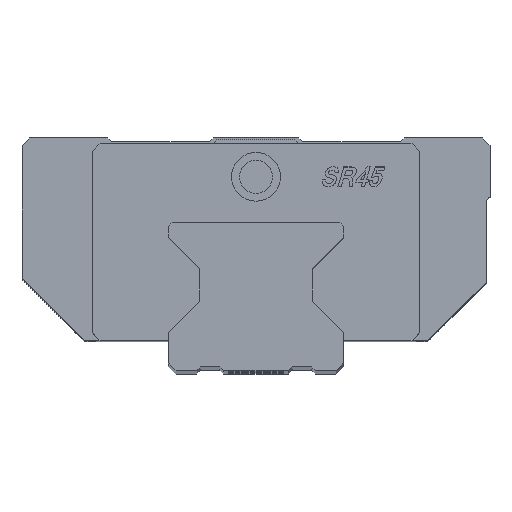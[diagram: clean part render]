
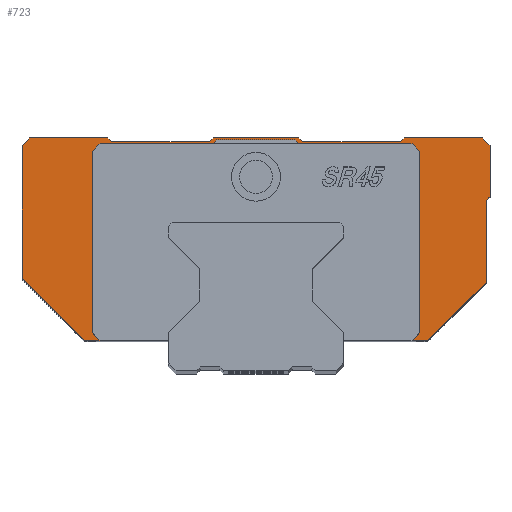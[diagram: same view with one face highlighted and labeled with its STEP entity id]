
A CAD part, top view. The second image highlights one B-rep face of the part: STEP entity #723.
In plain terms, the highlighted planar face has unit normal (0, 0, 1).
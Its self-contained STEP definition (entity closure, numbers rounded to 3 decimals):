
#723=ADVANCED_FACE('',(#1102),#961,.T.);
#961=PLANE('',#5102);
#1102=FACE_OUTER_BOUND('',#1381,.T.);
#1381=EDGE_LOOP('',(#2097,#2098,#2099,#2100,#2101,#2102,#2103,#2104,#2105,
#2106,#2107,#2108,#2109,#2110,#2111,#2112,#2113,#2114,#2115,#2116,#2117,
#2118,#2119,#2120,#2121,#2122,#2123,#2124,#2125,#2126));
#2097=ORIENTED_EDGE('',*,*,#3647,.T.);
#2098=ORIENTED_EDGE('',*,*,#3665,.T.);
#2099=ORIENTED_EDGE('',*,*,#3702,.T.);
#2100=ORIENTED_EDGE('',*,*,#3697,.T.);
#2101=ORIENTED_EDGE('',*,*,#3691,.T.);
#2102=ORIENTED_EDGE('',*,*,#3706,.T.);
#2103=ORIENTED_EDGE('',*,*,#3707,.T.);
#2104=ORIENTED_EDGE('',*,*,#3708,.T.);
#2105=ORIENTED_EDGE('',*,*,#3709,.T.);
#2106=ORIENTED_EDGE('',*,*,#3710,.T.);
#2107=ORIENTED_EDGE('',*,*,#3711,.T.);
#2108=ORIENTED_EDGE('',*,*,#3712,.T.);
#2109=ORIENTED_EDGE('',*,*,#3713,.T.);
#2110=ORIENTED_EDGE('',*,*,#3714,.T.);
#2111=ORIENTED_EDGE('',*,*,#3715,.T.);
#2112=ORIENTED_EDGE('',*,*,#3716,.T.);
#2113=ORIENTED_EDGE('',*,*,#3717,.T.);
#2114=ORIENTED_EDGE('',*,*,#3718,.T.);
#2115=ORIENTED_EDGE('',*,*,#3719,.T.);
#2116=ORIENTED_EDGE('',*,*,#3720,.F.);
#2117=ORIENTED_EDGE('',*,*,#3721,.F.);
#2118=ORIENTED_EDGE('',*,*,#3722,.F.);
#2119=ORIENTED_EDGE('',*,*,#3637,.F.);
#2120=ORIENTED_EDGE('',*,*,#3723,.F.);
#2121=ORIENTED_EDGE('',*,*,#3724,.F.);
#2122=ORIENTED_EDGE('',*,*,#3725,.F.);
#2123=ORIENTED_EDGE('',*,*,#3633,.F.);
#2124=ORIENTED_EDGE('',*,*,#3632,.F.);
#2125=ORIENTED_EDGE('',*,*,#3626,.F.);
#2126=ORIENTED_EDGE('',*,*,#3620,.F.);
#3125=VERTEX_POINT('',#7139);
#3126=VERTEX_POINT('',#7141);
#3130=VERTEX_POINT('',#7153);
#3134=VERTEX_POINT('',#7165);
#3135=VERTEX_POINT('',#7169);
#3138=VERTEX_POINT('',#7175);
#3139=VERTEX_POINT('',#7177);
#3146=VERTEX_POINT('',#7195);
#3159=VERTEX_POINT('',#7230);
#3179=VERTEX_POINT('',#7282);
#3180=VERTEX_POINT('',#7284);
#3183=VERTEX_POINT('',#7296);
#3185=VERTEX_POINT('',#7315);
#3186=VERTEX_POINT('',#7317);
#3187=VERTEX_POINT('',#7319);
#3188=VERTEX_POINT('',#7321);
#3189=VERTEX_POINT('',#7323);
#3190=VERTEX_POINT('',#7325);
#3191=VERTEX_POINT('',#7327);
#3192=VERTEX_POINT('',#7329);
#3193=VERTEX_POINT('',#7331);
#3194=VERTEX_POINT('',#7333);
#3195=VERTEX_POINT('',#7335);
#3196=VERTEX_POINT('',#7337);
#3197=VERTEX_POINT('',#7339);
#3198=VERTEX_POINT('',#7341);
#3199=VERTEX_POINT('',#7343);
#3200=VERTEX_POINT('',#7345);
#3201=VERTEX_POINT('',#7348);
#3202=VERTEX_POINT('',#7350);
#3620=EDGE_CURVE('',#3126,#3125,#4188,.T.);
#3626=EDGE_CURVE('',#3125,#3130,#4192,.T.);
#3632=EDGE_CURVE('',#3130,#3134,#4196,.T.);
#3633=EDGE_CURVE('',#3134,#3135,#4197,.T.);
#3637=EDGE_CURVE('',#3138,#3139,#4201,.T.);
#3647=EDGE_CURVE('',#3126,#3146,#4210,.T.);
#3665=EDGE_CURVE('',#3146,#3159,#4223,.T.);
#3691=EDGE_CURVE('',#3180,#3179,#4241,.T.);
#3697=EDGE_CURVE('',#3183,#3180,#4247,.T.);
#3702=EDGE_CURVE('',#3159,#3183,#4252,.T.);
#3706=EDGE_CURVE('',#3179,#3185,#4256,.T.);
#3707=EDGE_CURVE('',#3185,#3186,#4257,.T.);
#3708=EDGE_CURVE('',#3186,#3187,#4258,.T.);
#3709=EDGE_CURVE('',#3187,#3188,#4259,.T.);
#3710=EDGE_CURVE('',#3188,#3189,#4260,.T.);
#3711=EDGE_CURVE('',#3189,#3190,#4261,.T.);
#3712=EDGE_CURVE('',#3190,#3191,#4262,.T.);
#3713=EDGE_CURVE('',#3191,#3192,#4263,.T.);
#3714=EDGE_CURVE('',#3192,#3193,#4264,.T.);
#3715=EDGE_CURVE('',#3193,#3194,#4265,.T.);
#3716=EDGE_CURVE('',#3194,#3195,#4266,.T.);
#3717=EDGE_CURVE('',#3195,#3196,#4267,.T.);
#3718=EDGE_CURVE('',#3196,#3197,#4268,.T.);
#3719=EDGE_CURVE('',#3197,#3198,#4269,.T.);
#3720=EDGE_CURVE('',#3199,#3198,#4270,.T.);
#3721=EDGE_CURVE('',#3200,#3199,#4271,.T.);
#3722=EDGE_CURVE('',#3139,#3200,#4272,.T.);
#3723=EDGE_CURVE('',#3201,#3138,#4273,.T.);
#3724=EDGE_CURVE('',#3202,#3201,#4274,.T.);
#3725=EDGE_CURVE('',#3135,#3202,#4275,.T.);
#4188=LINE('',#7142,#4625);
#4192=LINE('',#7154,#4629);
#4196=LINE('',#7166,#4633);
#4197=LINE('',#7168,#4634);
#4201=LINE('',#7176,#4638);
#4210=LINE('',#7196,#4647);
#4223=LINE('',#7231,#4660);
#4241=LINE('',#7283,#4678);
#4247=LINE('',#7295,#4684);
#4252=LINE('',#7305,#4689);
#4256=LINE('',#7314,#4693);
#4257=LINE('',#7316,#4694);
#4258=LINE('',#7318,#4695);
#4259=LINE('',#7320,#4696);
#4260=LINE('',#7322,#4697);
#4261=LINE('',#7324,#4698);
#4262=LINE('',#7326,#4699);
#4263=LINE('',#7328,#4700);
#4264=LINE('',#7330,#4701);
#4265=LINE('',#7332,#4702);
#4266=LINE('',#7334,#4703);
#4267=LINE('',#7336,#4704);
#4268=LINE('',#7338,#4705);
#4269=LINE('',#7340,#4706);
#4270=LINE('',#7342,#4707);
#4271=LINE('',#7344,#4708);
#4272=LINE('',#7346,#4709);
#4273=LINE('',#7347,#4710);
#4274=LINE('',#7349,#4711);
#4275=LINE('',#7351,#4712);
#4625=VECTOR('',#5619,1.);
#4629=VECTOR('',#5631,1.);
#4633=VECTOR('',#5643,1.);
#4634=VECTOR('',#5646,1.);
#4638=VECTOR('',#5650,1.);
#4647=VECTOR('',#5665,1.);
#4660=VECTOR('',#5696,1.);
#4678=VECTOR('',#5742,1.);
#4684=VECTOR('',#5754,1.);
#4689=VECTOR('',#5765,1.);
#4693=VECTOR('',#5779,1.);
#4694=VECTOR('',#5780,1.);
#4695=VECTOR('',#5781,1.);
#4696=VECTOR('',#5782,1.);
#4697=VECTOR('',#5783,1.);
#4698=VECTOR('',#5784,1.);
#4699=VECTOR('',#5785,1.);
#4700=VECTOR('',#5786,1.);
#4701=VECTOR('',#5787,1.);
#4702=VECTOR('',#5788,1.);
#4703=VECTOR('',#5789,1.);
#4704=VECTOR('',#5790,1.);
#4705=VECTOR('',#5791,1.);
#4706=VECTOR('',#5792,1.);
#4707=VECTOR('',#5793,1.);
#4708=VECTOR('',#5794,1.);
#4709=VECTOR('',#5795,1.);
#4710=VECTOR('',#5796,1.);
#4711=VECTOR('',#5797,1.);
#4712=VECTOR('',#5798,1.);
#5102=AXIS2_PLACEMENT_3D('',#7352,#5799,#5800);
#5619=DIRECTION('',(0.707,0.707,0.));
#5631=DIRECTION('',(0.,1.,0.));
#5643=DIRECTION('',(-0.707,0.707,0.));
#5646=DIRECTION('',(-1.,0.,0.));
#5650=DIRECTION('',(-1.,0.,0.));
#5665=DIRECTION('',(1.,0.,0.));
#5696=DIRECTION('',(0.707,0.707,0.));
#5742=DIRECTION('',(0.,1.,0.));
#5754=DIRECTION('',(0.707,0.707,0.));
#5765=DIRECTION('',(0.,1.,0.));
#5779=DIRECTION('',(-0.707,0.707,0.));
#5780=DIRECTION('',(-1.,0.,0.));
#5781=DIRECTION('',(-0.707,-0.707,0.));
#5782=DIRECTION('',(-1.,0.,0.));
#5783=DIRECTION('',(-0.707,0.707,0.));
#5784=DIRECTION('',(-1.,0.,0.));
#5785=DIRECTION('',(-0.707,-0.707,0.));
#5786=DIRECTION('',(-1.,0.,0.));
#5787=DIRECTION('',(-0.707,0.707,0.));
#5788=DIRECTION('',(-1.,0.,0.));
#5789=DIRECTION('',(-0.707,-0.707,0.));
#5790=DIRECTION('',(0.,-1.,0.));
#5791=DIRECTION('',(0.707,-0.707,0.));
#5792=DIRECTION('',(1.,0.,0.));
#5793=DIRECTION('',(0.707,-0.707,0.));
#5794=DIRECTION('',(0.,-1.,0.));
#5795=DIRECTION('',(-0.707,-0.707,0.));
#5796=DIRECTION('',(-0.707,-0.707,0.));
#5797=DIRECTION('',(-1.,0.,0.));
#5798=DIRECTION('',(-0.707,0.707,0.));
#5799=DIRECTION('',(0.,0.,1.));
#5800=DIRECTION('',(1.,0.,0.));
#7139=CARTESIAN_POINT('',(42.,10.,69.9));
#7141=CARTESIAN_POINT('',(40.,8.,69.9));
#7142=CARTESIAN_POINT('',(40.,8.,69.9));
#7153=CARTESIAN_POINT('',(42.,56.5,69.9));
#7154=CARTESIAN_POINT('',(42.,10.,69.9));
#7165=CARTESIAN_POINT('',(40.,58.5,69.9));
#7166=CARTESIAN_POINT('',(42.,56.5,69.9));
#7168=CARTESIAN_POINT('',(40.,58.5,69.9));
#7169=CARTESIAN_POINT('',(11.,58.5,69.9));
#7175=CARTESIAN_POINT('',(-11.,58.5,69.9));
#7176=CARTESIAN_POINT('',(-11.,58.5,69.9));
#7177=CARTESIAN_POINT('',(-40.,58.5,69.9));
#7195=CARTESIAN_POINT('',(44.,8.,69.9));
#7196=CARTESIAN_POINT('',(40.,8.,69.9));
#7230=CARTESIAN_POINT('',(59.,23.,69.9));
#7231=CARTESIAN_POINT('',(44.,8.,69.9));
#7282=CARTESIAN_POINT('',(60.,58.,69.9));
#7283=CARTESIAN_POINT('',(60.,45.,69.9));
#7284=CARTESIAN_POINT('',(60.,45.,69.9));
#7295=CARTESIAN_POINT('',(59.,44.,69.9));
#7296=CARTESIAN_POINT('',(59.,44.,69.9));
#7305=CARTESIAN_POINT('',(59.,23.,69.9));
#7314=CARTESIAN_POINT('',(60.,58.,69.9));
#7315=CARTESIAN_POINT('',(58.,60.,69.9));
#7316=CARTESIAN_POINT('',(58.,60.,69.9));
#7317=CARTESIAN_POINT('',(38.,60.,69.9));
#7318=CARTESIAN_POINT('',(38.,60.,69.9));
#7319=CARTESIAN_POINT('',(37.,59.,69.9));
#7320=CARTESIAN_POINT('',(37.,59.,69.9));
#7321=CARTESIAN_POINT('',(12.,59.,69.9));
#7322=CARTESIAN_POINT('',(12.,59.,69.9));
#7323=CARTESIAN_POINT('',(11.,60.,69.9));
#7324=CARTESIAN_POINT('',(11.,60.,69.9));
#7325=CARTESIAN_POINT('',(-11.,60.,69.9));
#7326=CARTESIAN_POINT('',(-11.,60.,69.9));
#7327=CARTESIAN_POINT('',(-12.,59.,69.9));
#7328=CARTESIAN_POINT('',(-12.,59.,69.9));
#7329=CARTESIAN_POINT('',(-37.,59.,69.9));
#7330=CARTESIAN_POINT('',(-37.,59.,69.9));
#7331=CARTESIAN_POINT('',(-38.,60.,69.9));
#7332=CARTESIAN_POINT('',(-38.,60.,69.9));
#7333=CARTESIAN_POINT('',(-58.,60.,69.9));
#7334=CARTESIAN_POINT('',(-58.,60.,69.9));
#7335=CARTESIAN_POINT('',(-60.,58.,69.9));
#7336=CARTESIAN_POINT('',(-60.,58.,69.9));
#7337=CARTESIAN_POINT('',(-60.,24.,69.9));
#7338=CARTESIAN_POINT('',(-60.,24.,69.9));
#7339=CARTESIAN_POINT('',(-44.,8.,69.9));
#7340=CARTESIAN_POINT('',(-44.,8.,69.9));
#7341=CARTESIAN_POINT('',(-40.,8.,69.9));
#7342=CARTESIAN_POINT('',(-42.,10.,69.9));
#7343=CARTESIAN_POINT('',(-42.,10.,69.9));
#7344=CARTESIAN_POINT('',(-42.,56.5,69.9));
#7345=CARTESIAN_POINT('',(-42.,56.5,69.9));
#7346=CARTESIAN_POINT('',(-40.,58.5,69.9));
#7347=CARTESIAN_POINT('',(-10.,59.5,69.9));
#7348=CARTESIAN_POINT('',(-10.,59.5,69.9));
#7349=CARTESIAN_POINT('',(10.,59.5,69.9));
#7350=CARTESIAN_POINT('',(10.,59.5,69.9));
#7351=CARTESIAN_POINT('',(11.,58.5,69.9));
#7352=CARTESIAN_POINT('',(-66.,5.4,69.9));
